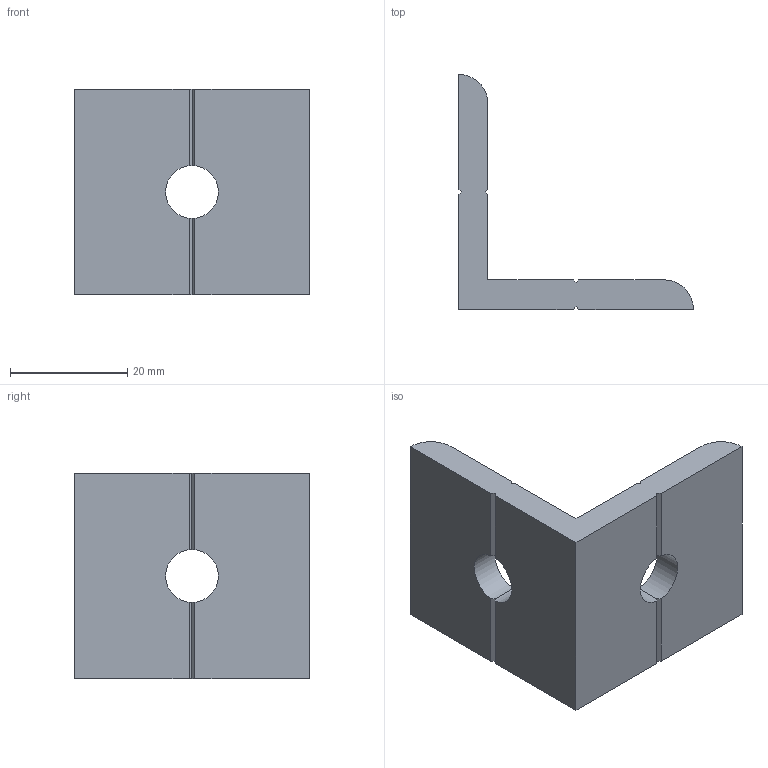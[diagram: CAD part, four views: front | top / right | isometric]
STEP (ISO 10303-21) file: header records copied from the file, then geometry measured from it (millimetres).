
FILE_DESCRIPTION (( 'STEP AP203' ), '1' );
FILE_NAME ('WL3540-8.STEP', '2024-02-19T06:11:19', ( '' ), ( '' ), 'SwSTEP 2.0', 'SolidWorks 2022', '' );
FILE_SCHEMA (( 'CONFIG_CONTROL_DESIGN' ));
Length unit declared in the file: millimetre
Products named in the file (1): WL3540-8
Bounding box: 40 x 40 x 35 mm (x, y, z)
Volume: 12087.3 mm3; surface area: 6245.7 mm2
Topology: 1 solids, 1 shells, 32 faces, 94 edges, 60 vertices
Faces by surface type: plane 26, cylinder 6
Entity records: 1131 total; most frequent: CARTESIAN_POINT 235, ORIENTED_EDGE 188, DIRECTION 156, EDGE_CURVE 94, VECTOR 66, LINE 66, VERTEX_POINT 60, AXIS2_PLACEMENT_3D 45
